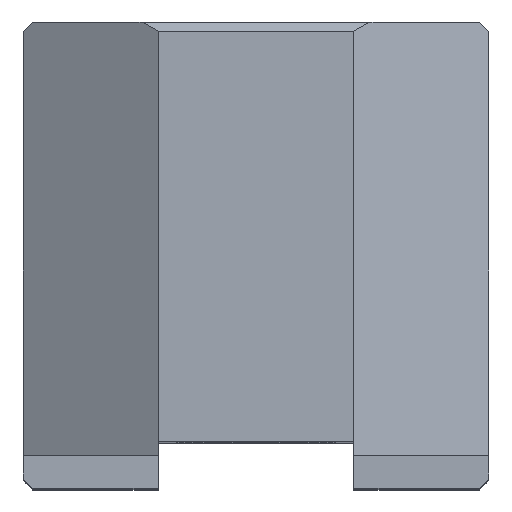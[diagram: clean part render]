
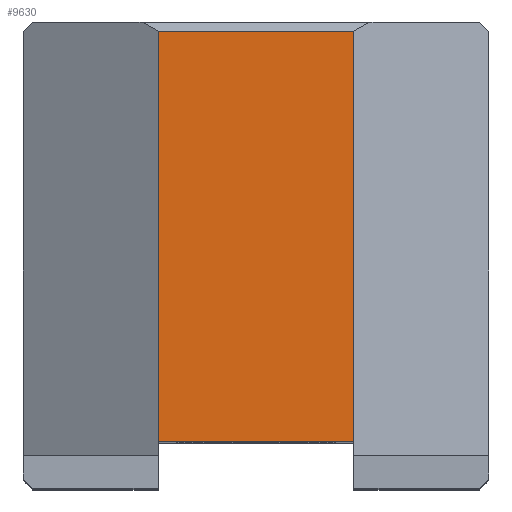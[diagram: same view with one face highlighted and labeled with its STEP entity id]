
A CAD part, top view. The second image highlights one B-rep face of the part: STEP entity #9630.
In plain terms, the highlighted planar face has unit normal (0, 0, 1).
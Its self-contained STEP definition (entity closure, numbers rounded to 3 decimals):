
#42=FACE_OUTER_BOUND('',#610,.T.);
#610=EDGE_LOOP('',(#6259,#6260,#6261,#6262));
#1184=LINE('',#13370,#2584);
#1194=LINE('',#13390,#2594);
#1198=LINE('',#13398,#2598);
#1199=LINE('',#13399,#2599);
#2584=VECTOR('',#10805,10.);
#2594=VECTOR('',#10817,10.);
#2598=VECTOR('',#10825,10.);
#2599=VECTOR('',#10826,10.);
#3984=VERTEX_POINT('',#13367);
#3985=VERTEX_POINT('',#13369);
#3989=VERTEX_POINT('',#13378);
#3994=VERTEX_POINT('',#13388);
#4832=EDGE_CURVE('',#3985,#3984,#1184,.T.);
#4842=EDGE_CURVE('',#3989,#3994,#1194,.T.);
#4846=EDGE_CURVE('',#3989,#3984,#1198,.T.);
#4847=EDGE_CURVE('',#3994,#3985,#1199,.T.);
#6259=ORIENTED_EDGE('',*,*,#4832,.T.);
#6260=ORIENTED_EDGE('',*,*,#4846,.F.);
#6261=ORIENTED_EDGE('',*,*,#4842,.T.);
#6262=ORIENTED_EDGE('',*,*,#4847,.T.);
#9068=PLANE('',#10221);
#9630=ADVANCED_FACE('',(#42),#9068,.T.);
#10221=AXIS2_PLACEMENT_3D('',#13397,#10823,#10824);
#10805=DIRECTION('',(0.,1.,0.));
#10817=DIRECTION('',(0.,-1.,0.));
#10823=DIRECTION('center_axis',(0.,0.,1.));
#10824=DIRECTION('ref_axis',(1.,0.,0.));
#10825=DIRECTION('',(1.,0.,0.));
#10826=DIRECTION('',(1.,0.,0.));
#13367=CARTESIAN_POINT('',(10.5,49.,65.));
#13369=CARTESIAN_POINT('',(10.5,5.,65.));
#13370=CARTESIAN_POINT('',(10.5,1.75,65.));
#13378=CARTESIAN_POINT('',(-10.5,49.,65.));
#13388=CARTESIAN_POINT('',(-10.5,5.,65.));
#13390=CARTESIAN_POINT('',(-10.5,1.75,65.));
#13397=CARTESIAN_POINT('Origin',(-25.,0.,65.));
#13398=CARTESIAN_POINT('',(-12.5,49.,65.));
#13399=CARTESIAN_POINT('',(-17.75,5.,65.));
